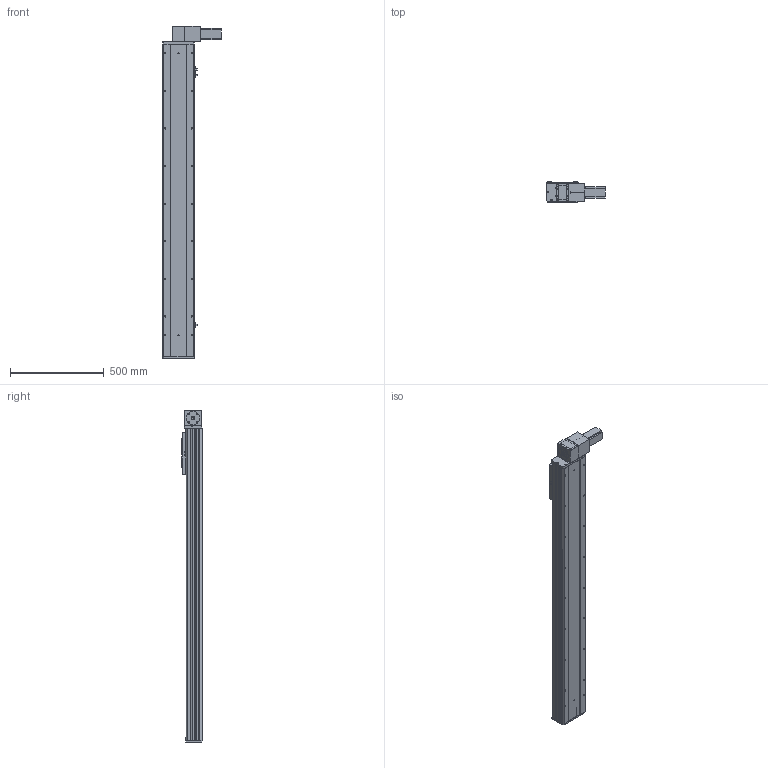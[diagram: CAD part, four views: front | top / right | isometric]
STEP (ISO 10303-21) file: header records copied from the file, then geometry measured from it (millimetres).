
FILE_DESCRIPTION (( 'STEP AP203' ), '1' );
FILE_NAME ('Y170CB-D105-S1350-BD-P400W.STEP', '2020-02-20T08:42:59', ( '微软用户' ), ( '微软中国' ), 'SwSTEP 2.0', 'SolidWorks 2017', '' );
FILE_SCHEMA (( 'CONFIG_CONTROL_DESIGN' ));
Length unit declared in the file: millimetre
Products named in the file (16): 0C--雄赽釱俋欶-170; B-源倛裔啣; 70CB-詩湍--; san松下电机400不带刹车----; Y100-135俋离換覜ん--; 70CB-掛极-; Y170CB-陔俋离換覜結え---; --70CB --喘謫眊楊擘啣-; Y1埴倛裔; 70CB-耜裔啣-; 70B喘謫眊----; 70C--詩湍揤踡え-; 0B薊粣ん眊-400W--; 70CB--耜裔; Y170CB-D105-S1350-BD-P400W; 70C-雄赽釱-奻-
Assembly tree (19 placements, depth 2):
  Y170CB-D105-S1350-BD-P400W
    B-源倛裔啣
    san松下电机400不带刹车----
    70CB-掛极-
    --70CB --喘謫眊楊擘啣-
    70CB-耜裔啣-  x2
    70C--詩湍揤踡え-  x2
    70CB--耜裔
    70C-雄赽釱-奻-
    0C--雄赽釱俋欶-170
    70CB-詩湍--
    Y100-135俋离換覜ん--  x3
    Y170CB-陔俋离換覜結え---
    Y1埴倛裔
    70B喘謫眊----
    0B薊粣ん眊-400W--
Bounding box: 313.5 x 107 x 1766 mm (x, y, z)
Volume: 8204625.9 mm3; surface area: 2817726.8 mm2
Topology: 19 solids, 19 shells, 936 faces, 2474 edges, 1640 vertices
Faces by surface type: cylinder 490, plane 422, cone 24
Entity records: 29303 total; most frequent: CARTESIAN_POINT 5446, DIRECTION 4767, ORIENTED_EDGE 4430, EDGE_CURVE 2215, AXIS2_PLACEMENT_3D 1761, VERTEX_POINT 1470, VECTOR 1245, LINE 1245
